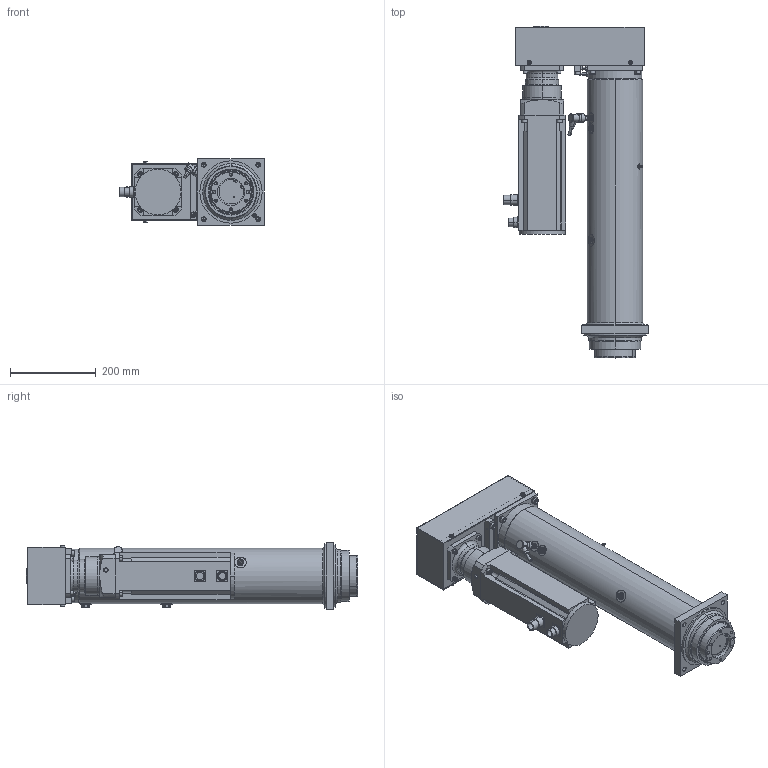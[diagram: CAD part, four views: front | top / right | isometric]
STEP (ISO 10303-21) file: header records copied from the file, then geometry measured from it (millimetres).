
FILE_DESCRIPTION (( 'STEP AP203' ), '1' );
FILE_NAME ('374130.STEP', '2017-07-26T12:37:36', ( 'Holtz' ), ( '' ), 'SwSTEP 2.0', 'SolidWorks 2016', '' );
FILE_SCHEMA (( 'CONFIG_CONTROL_DESIGN' ));
Length unit declared in the file: millimetre
Products named in the file (1): 374130
Bounding box: 336.77 x 773.5 x 155 mm (x, y, z)
Volume: 10534160.2 mm3; surface area: 1471845.8 mm2
Topology: 51 solids, 51 shells, 1651 faces, 3862 edges, 2349 vertices
Faces by surface type: plane 664, cylinder 653, cone 276, torus 52, bspline 6
Entity records: 51966 total; most frequent: CARTESIAN_POINT 13825, DIRECTION 8367, ORIENTED_EDGE 7452, EDGE_CURVE 3726, AXIS2_PLACEMENT_3D 3247, VERTEX_POINT 2349, EDGE_LOOP 2001, VECTOR 1873
